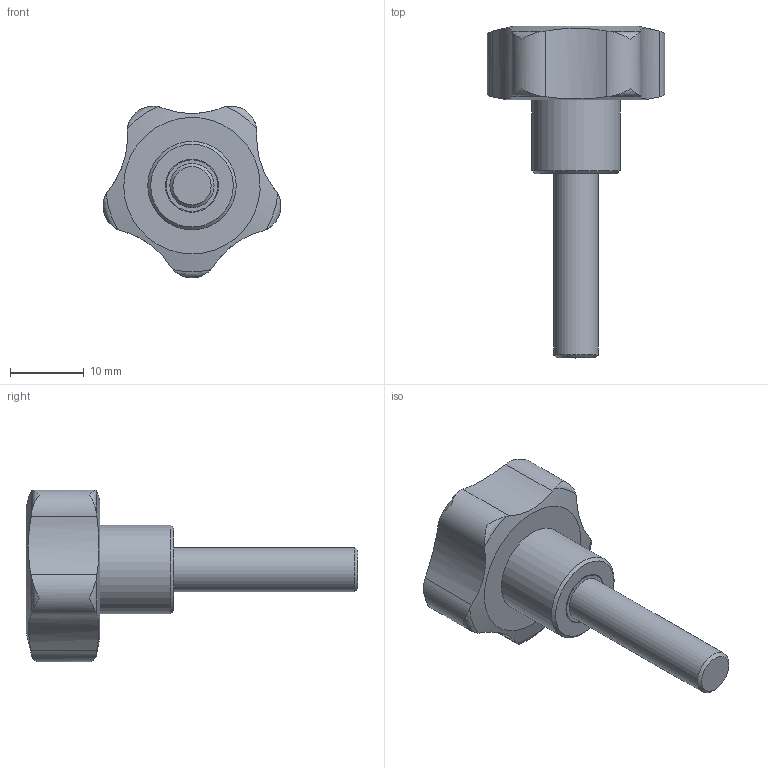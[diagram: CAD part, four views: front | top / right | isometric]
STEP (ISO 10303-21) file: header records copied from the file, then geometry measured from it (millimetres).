
FILE_DESCRIPTION( ( 'STEP AP203' ), '1' );
FILE_NAME( 'C:/Temp/Ganter_Step_05_03_2020/data/2_2/gn_5337_4/gn_5337_4_s/Star knob GN 5337.4-25-M6-25.stp', '2020-03-05T12:09:40', ( 'License CC BY-ND 4.0' ), ( 'CADENAS' ), ' ', 'PARTsolutions', ' ' );
FILE_SCHEMA( ( 'CONFIG_CONTROL_DESIGN' ) );
Length unit declared in the file: millimetre
Products named in the file (1): _Star knob GN 5337.4-25-M6-25
Bounding box: 24.11 x 45 x 23.28 mm (x, y, z)
Volume: 5521.6 mm3; surface area: 2295.1 mm2
Topology: 1 solids, 1 shells, 34 faces, 95 edges, 66 vertices
Faces by surface type: cylinder 14, torus 10, plane 5, cone 3, bspline 1, sphere 1
Full cylindrical faces by diameter (mm): 6 x1, 7 x1, 7.2 x1, 12 x1
Entity records: 1417 total; most frequent: CARTESIAN_POINT 629, ORIENTED_EDGE 164, DIRECTION 122, EDGE_CURVE 82, VERTEX_POINT 63, AXIS2_PLACEMENT_3D 56, B_SPLINE_CURVE_WITH_KNOTS 50, EDGE_LOOP 46
